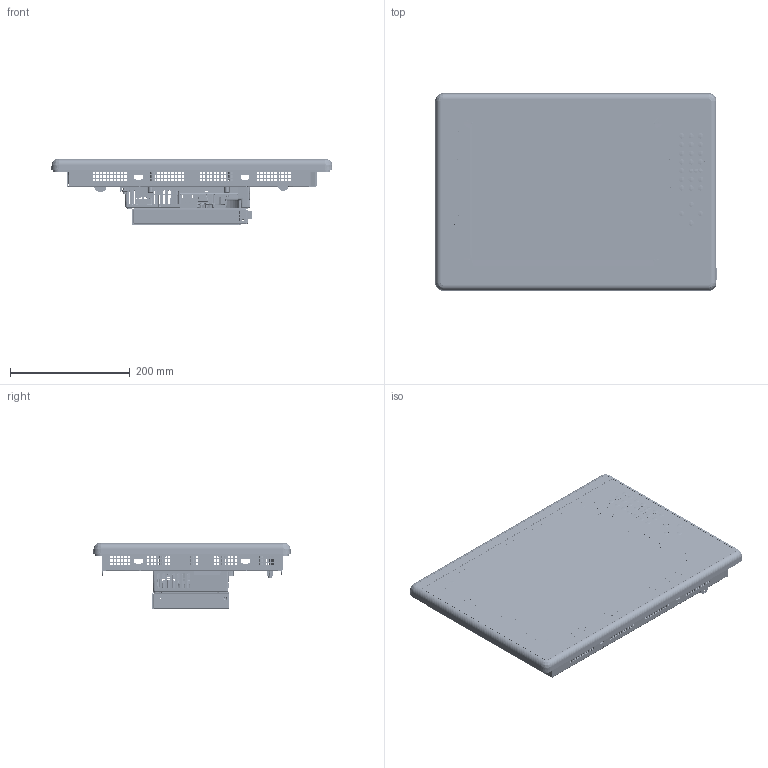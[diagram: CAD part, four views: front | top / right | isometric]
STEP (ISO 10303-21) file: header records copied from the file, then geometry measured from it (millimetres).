
FILE_DESCRIPTION((''),'2;1');
FILE_NAME('10001560289_ASM','2015-03-06T',('PBindal'),('Rockwell Automation'),'PRO/ENGINEER BY PARAMETRIC TECHNOLOGY CORPORATION, 2012480','PRO/ENGINEER BY PARAMETRIC TECHNOLOGY CORPORATION, 2012480','');
FILE_SCHEMA(('CONFIG_CONTROL_DESIGN'));
Products named in the file (1): 10001560289_ASM
Bounding box: 469.43 x 329.54 x 110.46 mm (x, y, z)
Volume: 877491 mm3; surface area: 1472566.5 mm2
Topology: 8 solids, 26 shells, 12184 faces, 34285 edges, 21996 vertices
Faces by surface type: plane 8698, cylinder 2187, cone 406, bspline 385, torus 200, extrusion 162, sphere 146
Entity records: 416124 total; most frequent: CARTESIAN_POINT 100512, ORIENTED_EDGE 68208, DIRECTION 59832, EDGE_CURVE 34181, VECTOR 27554, LINE 27392, VERTEX_POINT 21991, AXIS2_PLACEMENT_3D 16139
